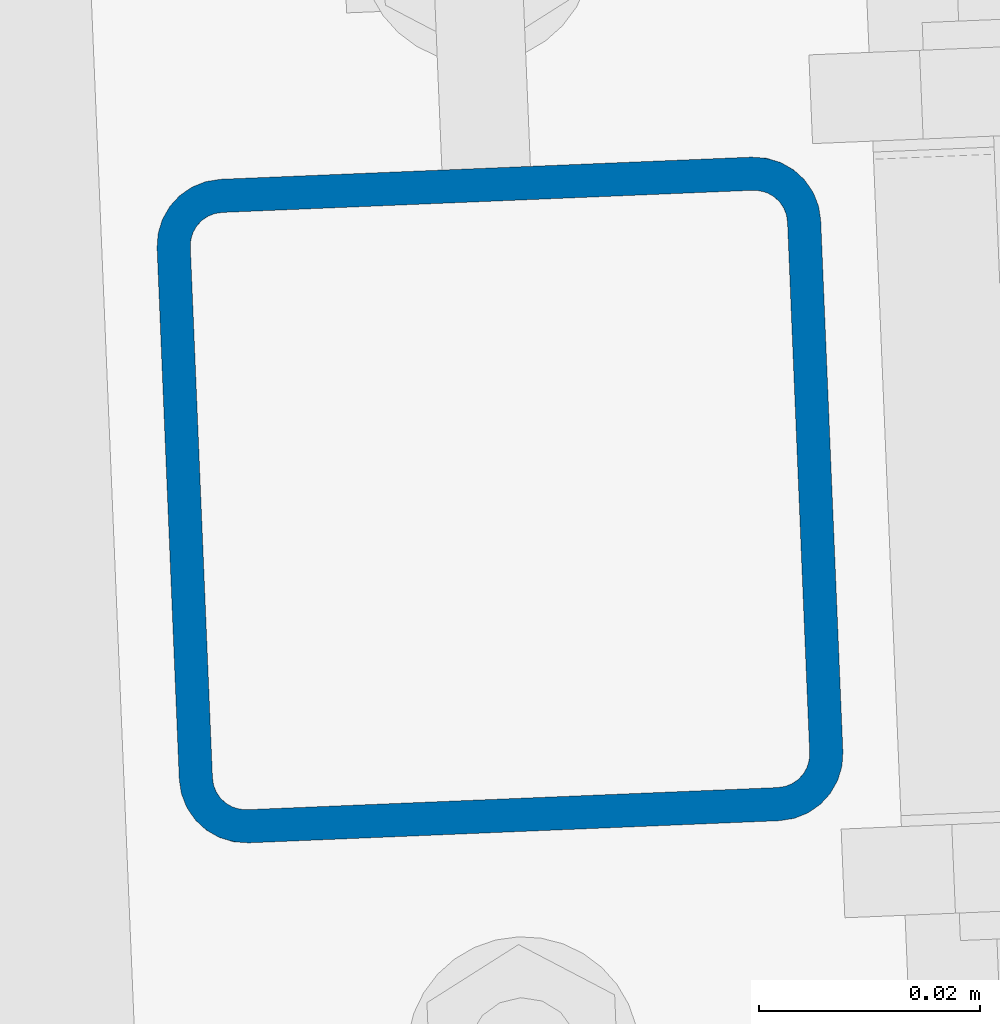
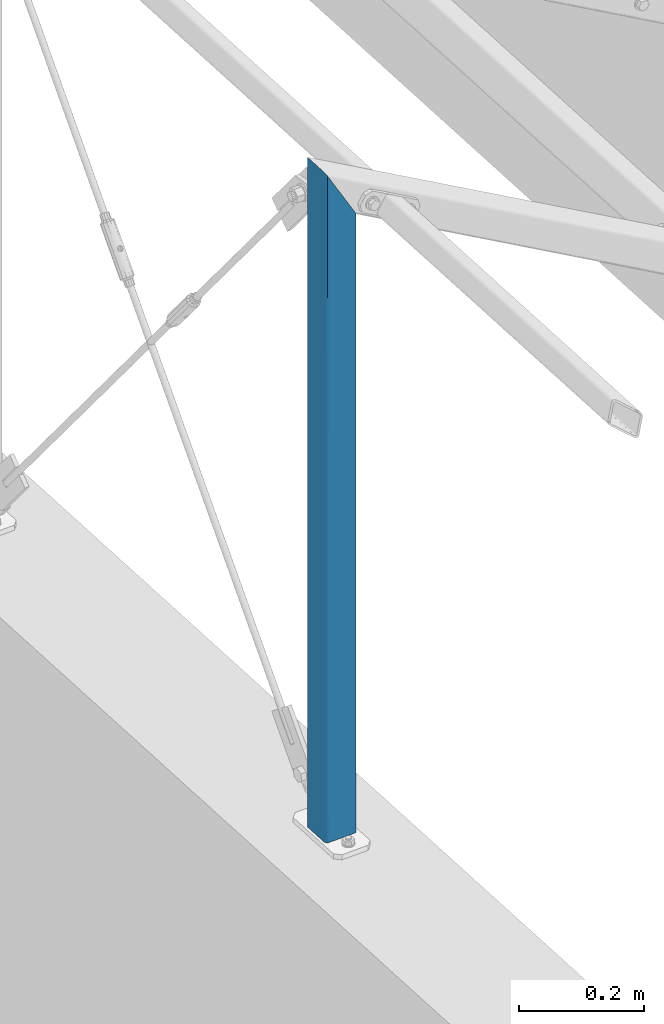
# One storey, part 2 of 288: 1 column.
"""IFC2X3 building model written with IfcOpenShell, lengths in millimetres."""

from ifc_helpers import new_model, entity, si_unit, converted_unit, frame, origin, origin_with_axes, origin_2d, place, context, project, spatial, hollow_rectangle, extrude, clip, halfspace, material, element, save


model = new_model("IFC2X3")

# Units and contexts
model_context = context("Model", 3, precision=1e-09, world=origin_with_axes())
ifc_project = project(units=[si_unit("LENGTHUNIT", "METRE", prefix="MILLI"), si_unit("AREAUNIT", "SQUARE_METRE"), si_unit("VOLUMEUNIT", "CUBIC_METRE"), converted_unit("PLANEANGLEUNIT", "DEGREE", entity("IfcPlaneAngleMeasure", 0.01745329), si_unit("PLANEANGLEUNIT", "RADIAN"), dimensions=[0, 0, 0, 0, 0, 0, 0])], contexts=[model_context])

# Site, building, storey
site_placement = place(None, origin_with_axes())
site = spatial("IfcSite", under=ifc_project, at=site_placement, Name="Remont ?wietlik?w nad MC w NCPP w Opolu", CompositionType="ELEMENT")
building_placement = place(site_placement, origin_with_axes())
building = spatial("IfcBuilding", under=site, at=building_placement, Name="Konstrukcja 1", CompositionType="ELEMENT")
storey_placement = place(building_placement, origin_with_axes())
storey = spatial("IfcBuildingStorey", under=building, at=storey_placement, Name="Default Storey", CompositionType="ELEMENT", Elevation=0.0)

# Column
ifc_material = material(Name="S235")
column_placement = place(None, frame((-418.743628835, 7040.239624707, -42.426406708), z_axis=(0.0, 0.0, -1.0), x_axis=(0.999131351, 0.041671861, 0.0)))
element("IfcColumn", 1, at=column_placement, inside=storey, material=ifc_material, Name="Horizontal_Beam", ObjectType="Horizontal_Beam", context=model_context, shape_type="Clipping", body=[
    clip(clip(extrude(hollow_rectangle(XDim=60.0, YDim=60.0, WallThickness=3.0, InnerFilletRadius=3.0, OuterFilletRadius=6.0, at=origin_2d()), origin(), (0.0, 0.0, -1.0), 1397.279189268), halfspace(frame((581.174135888, 7051.574063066, -305.798796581), z_axis=(-0.866025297, -2.11e-07, 0.500000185), x_axis=(-2.44e-07, 1.0, 0.0)), True)), halfspace(frame((125.000000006, 7051.573951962, -52.427406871), z_axis=(0.0, 0.0, -1.0), x_axis=(0.999131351, 0.041671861, 0.0)), True)),
])

save(model, "model.ifc")
